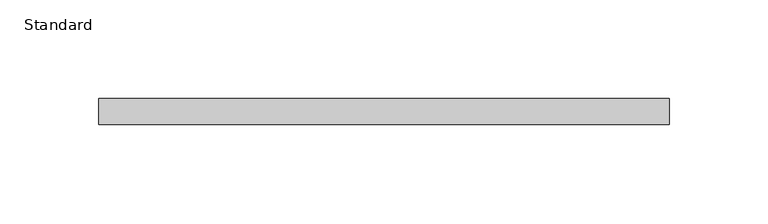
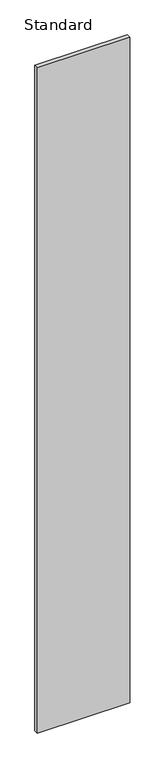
"""IFC4 building model written with IfcOpenShell, lengths in millimetres: furniture geometry, X_Partition-Compact Laminate-Duracube-Rectangular : Standard."""

from ifc_helpers import new_model, si_unit, frame, origin, place, context, project, spatial, polyline, outline, extrude, source, transform, mapped, element, save


def standard_a8bdd259(model_context):
    return source(origin(), model_context, "Body", "SweptSolid", [
        extrude(outline(polyline([(188.9503264, 0.0), (188.9503264, -13.0), (-99.5496736, -13.0), (-99.5496736, 0.0), (188.9503264, 0.0)])), frame((0.0, 0.0, 200.0), z_axis=(0.0, 0.0, 1.0), x_axis=(1.0, 0.0, 0.0)), (0.0, 0.0, 1.0), 2198.0),
    ])


if __name__ == "__main__":
    model = new_model("IFC4")
    model_context = context("Model", 3, world=origin())
    ifc_project = project(units=[si_unit("LENGTHUNIT", "METRE", prefix="MILLI")], contexts=[model_context])
    site = spatial("IfcSite", under=ifc_project)
    building = spatial("IfcBuilding", under=site)
    placement = place(None, origin())
    standard_shape = standard_a8bdd259(model_context)
    element("IfcFurniture", 1, ObjectType="X_Partition-Compact Laminate-Duracube-Rectangular : Standard", at=placement, inside=building, context=model_context, shape_type="MappedRepresentation", body=[
        mapped(standard_shape, transform((0.0, 0.0, 0.0), x_axis=(1.0, 0.0, 0.0), y_axis=(0.0, 1.0, 0.0), z_axis=(0.0, 0.0, 1.0))),
    ])
    save(model, "model.ifc")
